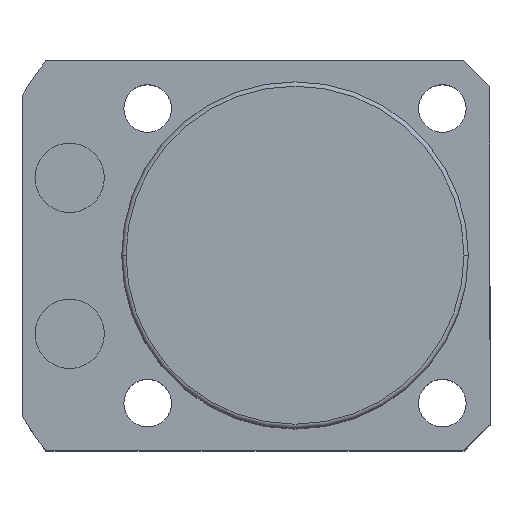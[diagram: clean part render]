
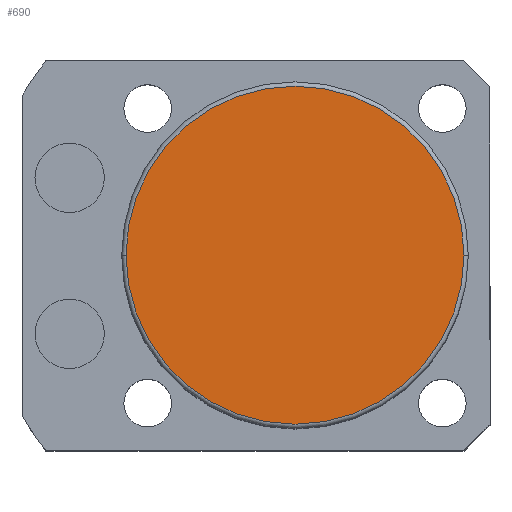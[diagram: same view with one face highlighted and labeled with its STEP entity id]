
A CAD part, top view. The second image highlights one B-rep face of the part: STEP entity #690.
In plain terms, the highlighted planar face has unit normal (0, 0, 1).
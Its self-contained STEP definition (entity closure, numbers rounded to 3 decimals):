
#690 = ADVANCED_FACE ( 'NONE', ( #3331 ), #2884, .T. ) ;
#1249 = DIRECTION ( 'NONE',  ( 0., 0., 1. ) ) ;
#1402 = DIRECTION ( 'NONE',  ( 1., 0., 0. ) ) ;
#2390 = ORIENTED_EDGE ( 'NONE', *, *, #3077, .T. ) ;
#2402 = CIRCLE ( 'NONE', #4829, 19.5 ) ;
#2658 = DIRECTION ( 'NONE',  ( 0., 0., 1. ) ) ;
#2727 = EDGE_CURVE ( 'NONE', #5091, #4634, #2402, .T. ) ;
#2788 = CARTESIAN_POINT ( 'NONE',  ( 19.5, 0., 53.5 ) ) ;
#2867 = DIRECTION ( 'NONE',  ( 1., 0., 0. ) ) ;
#2884 = PLANE ( 'NONE',  #3634 ) ;
#2970 = DIRECTION ( 'NONE',  ( 1., 0., 0. ) ) ;
#3077 = EDGE_CURVE ( 'NONE', #4634, #5091, #3904, .T. ) ;
#3239 = CARTESIAN_POINT ( 'NONE',  ( -19.5, 0., 53.5 ) ) ;
#3269 = CARTESIAN_POINT ( 'NONE',  ( 0., 0., 53.5 ) ) ;
#3331 = FACE_OUTER_BOUND ( 'NONE', #5045, .T. ) ;
#3634 = AXIS2_PLACEMENT_3D ( 'NONE', #3269, #1249, #2867 ) ;
#3904 = CIRCLE ( 'NONE', #5174, 19.5 ) ;
#4267 = CARTESIAN_POINT ( 'NONE',  ( 0., 0., 53.5 ) ) ;
#4502 = ORIENTED_EDGE ( 'NONE', *, *, #2727, .T. ) ;
#4606 = CARTESIAN_POINT ( 'NONE',  ( 0., 0., 53.5 ) ) ;
#4634 = VERTEX_POINT ( 'NONE', #3239 ) ;
#4829 = AXIS2_PLACEMENT_3D ( 'NONE', #4606, #5024, #2970 ) ;
#5024 = DIRECTION ( 'NONE',  ( 0., 0., 1. ) ) ;
#5045 = EDGE_LOOP ( 'NONE', ( #4502, #2390 ) ) ;
#5091 = VERTEX_POINT ( 'NONE', #2788 ) ;
#5174 = AXIS2_PLACEMENT_3D ( 'NONE', #4267, #2658, #1402 ) ;
